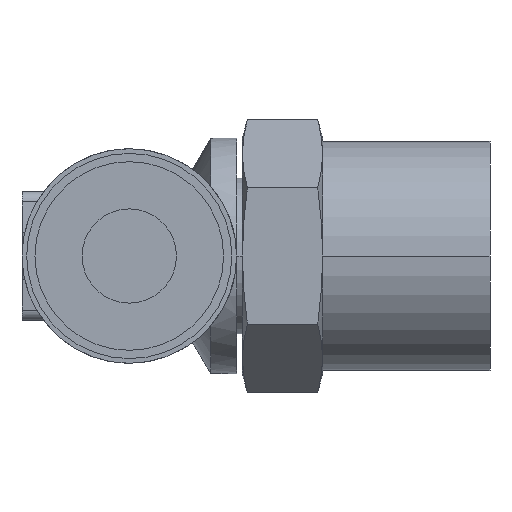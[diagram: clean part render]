
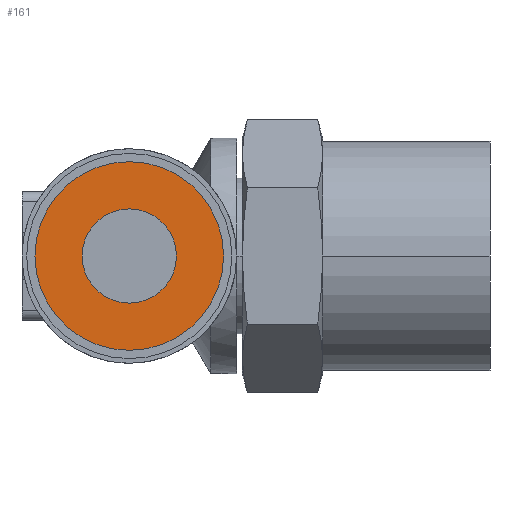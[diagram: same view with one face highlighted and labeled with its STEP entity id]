
A CAD part, left-side view. The second image highlights one B-rep face of the part: STEP entity #161.
In plain terms, the highlighted planar face has unit normal (-1, 0, 0).
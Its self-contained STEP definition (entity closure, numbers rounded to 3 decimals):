
#161 = ADVANCED_FACE( '', ( #345, #346 ), #347, .T. );
#345 = FACE_BOUND( '', #530, .T. );
#346 = FACE_OUTER_BOUND( '', #531, .T. );
#347 = PLANE( '', #532 );
#530 = EDGE_LOOP( '', ( #1191, #1192 ) );
#531 = EDGE_LOOP( '', ( #1193, #1194 ) );
#532 = AXIS2_PLACEMENT_3D( '', #1195, #1196, #1197 );
#1191 = ORIENTED_EDGE( '', *, *, #1261, .T. );
#1192 = ORIENTED_EDGE( '', *, *, #1257, .T. );
#1193 = ORIENTED_EDGE( '', *, *, #1201, .T. );
#1194 = ORIENTED_EDGE( '', *, *, #1399, .T. );
#1195 = CARTESIAN_POINT( '', ( -14.4, 14.15, 0. ) );
#1196 = DIRECTION( '', ( -1., 0., 0. ) );
#1197 = DIRECTION( '', ( 0., 1., 0. ) );
#1201 = EDGE_CURVE( '', #1401, #1405, #1407, .T. );
#1257 = EDGE_CURVE( '', #1519, #1516, #1520, .T. );
#1261 = EDGE_CURVE( '', #1516, #1519, #1525, .T. );
#1399 = EDGE_CURVE( '', #1405, #1401, #1729, .T. );
#1401 = VERTEX_POINT( '', #1731 );
#1405 = VERTEX_POINT( '', #1736 );
#1407 = CIRCLE( '', #1739, 4. );
#1516 = VERTEX_POINT( '', #1943 );
#1519 = VERTEX_POINT( '', #1947 );
#1520 = CIRCLE( '', #1948, 2. );
#1525 = CIRCLE( '', #1954, 2. );
#1729 = CIRCLE( '', #2610, 4. );
#1731 = CARTESIAN_POINT( '', ( -14.4, 16.15, 0. ) );
#1736 = CARTESIAN_POINT( '', ( -14.4, 8.15, 0. ) );
#1739 = AXIS2_PLACEMENT_3D( '', #2616, #2617, #2618 );
#1943 = CARTESIAN_POINT( '', ( -14.4, 14.15, 0. ) );
#1947 = CARTESIAN_POINT( '', ( -14.4, 10.15, 0. ) );
#1948 = AXIS2_PLACEMENT_3D( '', #2716, #2717, #2718 );
#1954 = AXIS2_PLACEMENT_3D( '', #2726, #2727, #2728 );
#2610 = AXIS2_PLACEMENT_3D( '', #2936, #2937, #2938 );
#2616 = CARTESIAN_POINT( '', ( -14.4, 12.15, 0. ) );
#2617 = DIRECTION( '', ( -1., 0., 0. ) );
#2618 = DIRECTION( '', ( 0., 1., 0. ) );
#2716 = CARTESIAN_POINT( '', ( -14.4, 12.15, 0. ) );
#2717 = DIRECTION( '', ( 1., 0., 0. ) );
#2718 = DIRECTION( '', ( 0., 1., 0. ) );
#2726 = CARTESIAN_POINT( '', ( -14.4, 12.15, 0. ) );
#2727 = DIRECTION( '', ( 1., 0., 0. ) );
#2728 = DIRECTION( '', ( 0., 1., 0. ) );
#2936 = CARTESIAN_POINT( '', ( -14.4, 12.15, 0. ) );
#2937 = DIRECTION( '', ( -1., 0., 0. ) );
#2938 = DIRECTION( '', ( 0., 1., 0. ) );
